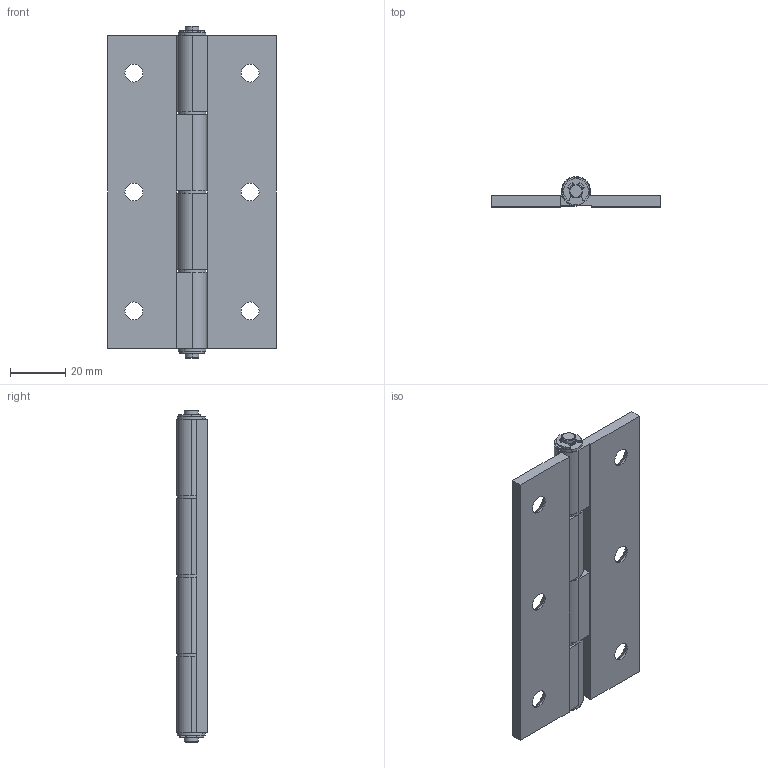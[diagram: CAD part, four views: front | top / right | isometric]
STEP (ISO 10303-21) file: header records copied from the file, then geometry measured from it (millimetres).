
FILE_DESCRIPTION (( 'STEP AP203' ), '1' );
FILE_NAME ('SK2-168-26.STEP', '2020-01-03T01:35:12', ( 'admin' ), ( 'Microsoft' ), 'SwSTEP 2.0', 'SolidWorks 2018', '' );
FILE_SCHEMA (( 'CONFIG_CONTROL_DESIGN' ));
Length unit declared in the file: millimetre
Products named in the file (5): SK2-168-26; 2-168-26-F1; 2-168-26-F2; 2-168-26-F3; e rings gb_GB_CONNECTING_PIECE_RINGS_HR 4
Assembly tree (10 placements, depth 2):
  SK2-168-26
    2-168-26-F1  x2
    2-168-26-F2  x5
    2-168-26-F3
    e rings gb_GB_CONNECTING_PIECE_RINGS_HR 4  x2
Bounding box: 61 x 11 x 120 mm (x, y, z)
Volume: 31680.3 mm3; surface area: 21892.2 mm2
Topology: 10 solids, 10 shells, 164 faces, 404 edges, 264 vertices
Faces by surface type: cylinder 90, plane 58, cone 16
Entity records: 3214 total; most frequent: DIRECTION 493, CARTESIAN_POINT 431, ORIENTED_EDGE 406, EDGE_CURVE 203, AXIS2_PLACEMENT_3D 194, VERTEX_POINT 132, LINE 105, VECTOR 105
